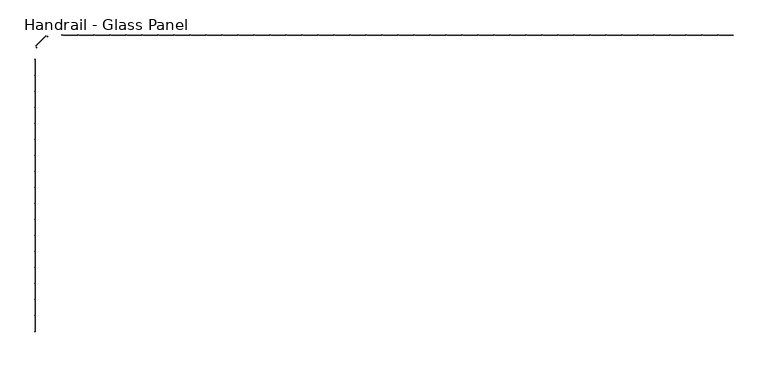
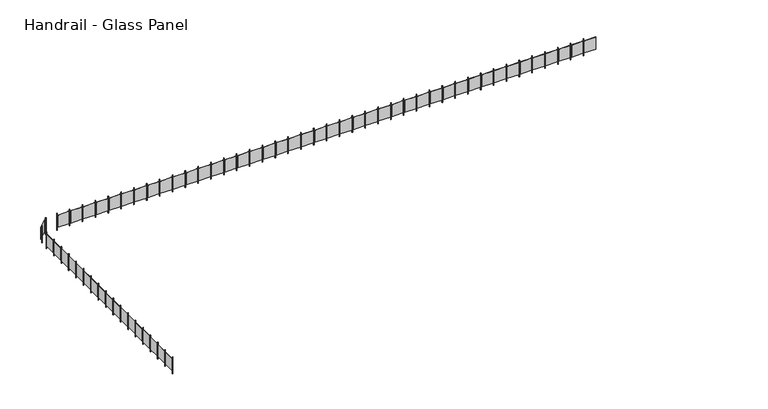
"""IFC4 building model written with IfcOpenShell, lengths in millimetres: railing geometry, Handrail - Glass Panel."""

from ifc_helpers import new_model, si_unit, frame, origin, place, context, project, spatial, polyline, outline, extrude, source, transform, mapped, element, save


def handrail_glass_panel_b0fdf184(model_context):
    return source(origin(), model_context, "Body", "SweptSolid", [
        extrude(outline(polyline([(-19672.5115899, -3230.5898653), (-19653.4615899, -3230.5898653), (-19653.4615899, -3249.6398653), (-19672.5115899, -3249.6398653), (-19672.5115899, -3230.5898653)])), frame((0.0, 0.0, 4650.0), z_axis=(0.0, 0.0, 1.0), x_axis=(1.0, 0.0, 0.0)), (0.0, 0.0, 1.0), 863.6),
        extrude(outline(polyline([(-19656.6365899, -2643.2148653), (-19656.6365899, -3202.0148653), (-19662.9865899, -3202.0148653), (-19662.9865899, -2643.2148653), (-19656.6365899, -2643.2148653)])), frame((0.0, 0.0, 4777.0), z_axis=(0.0, 0.0, 1.0), x_axis=(1.0, 0.0, 0.0)), (0.0, 0.0, 1.0), 635.0),
        extrude(outline(polyline([(-19672.5115899, -2595.5898653), (-19653.4615899, -2595.5898653), (-19653.4615899, -2614.6398653), (-19672.5115899, -2614.6398653), (-19672.5115899, -2595.5898653)])), frame((0.0, 0.0, 4650.0), z_axis=(0.0, 0.0, 1.0), x_axis=(1.0, 0.0, 0.0)), (0.0, 0.0, 1.0), 863.6),
        extrude(outline(polyline([(-19656.6365899, -2008.2148653), (-19656.6365899, -2567.0148653), (-19662.9865899, -2567.0148653), (-19662.9865899, -2008.2148653), (-19656.6365899, -2008.2148653)])), frame((0.0, 0.0, 4777.0), z_axis=(0.0, 0.0, 1.0), x_axis=(1.0, 0.0, 0.0)), (0.0, 0.0, 1.0), 635.0),
        extrude(outline(polyline([(-19672.5115899, -1960.5898653), (-19653.4615899, -1960.5898653), (-19653.4615899, -1979.6398653), (-19672.5115899, -1979.6398653), (-19672.5115899, -1960.5898653)])), frame((0.0, 0.0, 4650.0), z_axis=(0.0, 0.0, 1.0), x_axis=(1.0, 0.0, 0.0)), (0.0, 0.0, 1.0), 863.6),
        extrude(outline(polyline([(-19656.6365899, -1373.2148653), (-19656.6365899, -1932.0148653), (-19662.9865899, -1932.0148653), (-19662.9865899, -1373.2148653), (-19656.6365899, -1373.2148653)])), frame((0.0, 0.0, 4777.0), z_axis=(0.0, 0.0, 1.0), x_axis=(1.0, 0.0, 0.0)), (0.0, 0.0, 1.0), 635.0),
        extrude(outline(polyline([(-19672.5115899, -1325.5898653), (-19653.4615899, -1325.5898653), (-19653.4615899, -1344.6398653), (-19672.5115899, -1344.6398653), (-19672.5115899, -1325.5898653)])), frame((0.0, 0.0, 4650.0), z_axis=(0.0, 0.0, 1.0), x_axis=(1.0, 0.0, 0.0)), (0.0, 0.0, 1.0), 863.6),
        extrude(outline(polyline([(-19656.6365899, -738.2148653), (-19656.6365899, -1297.0148653), (-19662.9865899, -1297.0148653), (-19662.9865899, -738.2148653), (-19656.6365899, -738.2148653)])), frame((0.0, 0.0, 4777.0), z_axis=(0.0, 0.0, 1.0), x_axis=(1.0, 0.0, 0.0)), (0.0, 0.0, 1.0), 635.0),
        extrude(outline(polyline([(-19672.5115899, -690.5898653), (-19653.4615899, -690.5898653), (-19653.4615899, -709.6398653), (-19672.5115899, -709.6398653), (-19672.5115899, -690.5898653)])), frame((0.0, 0.0, 4650.0), z_axis=(0.0, 0.0, 1.0), x_axis=(1.0, 0.0, 0.0)), (0.0, 0.0, 1.0), 863.6),
        extrude(outline(polyline([(-19656.6365899, -103.2148653), (-19656.6365899, -662.0148653), (-19662.9865899, -662.0148653), (-19662.9865899, -103.2148653), (-19656.6365899, -103.2148653)])), frame((0.0, 0.0, 4777.0), z_axis=(0.0, 0.0, 1.0), x_axis=(1.0, 0.0, 0.0)), (0.0, 0.0, 1.0), 635.0),
        extrude(outline(polyline([(-19672.5115899, -55.5898653), (-19653.4615899, -55.5898653), (-19653.4615899, -74.6398653), (-19672.5115899, -74.6398653), (-19672.5115899, -55.5898653)])), frame((0.0, 0.0, 4650.0), z_axis=(0.0, 0.0, 1.0), x_axis=(1.0, 0.0, 0.0)), (0.0, 0.0, 1.0), 863.6),
        extrude(outline(polyline([(-19656.6365899, 531.7851347), (-19656.6365899, -27.0148653), (-19662.9865899, -27.0148653), (-19662.9865899, 531.7851347), (-19656.6365899, 531.7851347)])), frame((0.0, 0.0, 4777.0), z_axis=(0.0, 0.0, 1.0), x_axis=(1.0, 0.0, 0.0)), (0.0, 0.0, 1.0), 635.0),
        extrude(outline(polyline([(-19672.5115899, 579.4101347), (-19653.4615899, 579.4101347), (-19653.4615899, 560.3601347), (-19672.5115899, 560.3601347), (-19672.5115899, 579.4101347)])), frame((0.0, 0.0, 4650.0), z_axis=(0.0, 0.0, 1.0), x_axis=(1.0, 0.0, 0.0)), (0.0, 0.0, 1.0), 863.6),
        extrude(outline(polyline([(-19656.6365899, 1166.7851347), (-19656.6365899, 607.9851347), (-19662.9865899, 607.9851347), (-19662.9865899, 1166.7851347), (-19656.6365899, 1166.7851347)])), frame((0.0, 0.0, 4777.0), z_axis=(0.0, 0.0, 1.0), x_axis=(1.0, 0.0, 0.0)), (0.0, 0.0, 1.0), 635.0),
        extrude(outline(polyline([(-19672.5115899, 1214.4101347), (-19653.4615899, 1214.4101347), (-19653.4615899, 1195.3601347), (-19672.5115899, 1195.3601347), (-19672.5115899, 1214.4101347)])), frame((0.0, 0.0, 4650.0), z_axis=(0.0, 0.0, 1.0), x_axis=(1.0, 0.0, 0.0)), (0.0, 0.0, 1.0), 863.6),
        extrude(outline(polyline([(-19656.6365899, 1801.7851347), (-19656.6365899, 1242.9851347), (-19662.9865899, 1242.9851347), (-19662.9865899, 1801.7851347), (-19656.6365899, 1801.7851347)])), frame((0.0, 0.0, 4777.0), z_axis=(0.0, 0.0, 1.0), x_axis=(1.0, 0.0, 0.0)), (0.0, 0.0, 1.0), 635.0),
        extrude(outline(polyline([(-19672.5115899, 1849.4101347), (-19653.4615899, 1849.4101347), (-19653.4615899, 1830.3601347), (-19672.5115899, 1830.3601347), (-19672.5115899, 1849.4101347)])), frame((0.0, 0.0, 4650.0), z_axis=(0.0, 0.0, 1.0), x_axis=(1.0, 0.0, 0.0)), (0.0, 0.0, 1.0), 863.6),
        extrude(outline(polyline([(-19656.6365899, 2436.7851347), (-19656.6365899, 1877.9851347), (-19662.9865899, 1877.9851347), (-19662.9865899, 2436.7851347), (-19656.6365899, 2436.7851347)])), frame((0.0, 0.0, 4777.0), z_axis=(0.0, 0.0, 1.0), x_axis=(1.0, 0.0, 0.0)), (0.0, 0.0, 1.0), 635.0),
        extrude(outline(polyline([(-19672.5115899, 2484.4101347), (-19653.4615899, 2484.4101347), (-19653.4615899, 2465.3601347), (-19672.5115899, 2465.3601347), (-19672.5115899, 2484.4101347)])), frame((0.0, 0.0, 4650.0), z_axis=(0.0, 0.0, 1.0), x_axis=(1.0, 0.0, 0.0)), (0.0, 0.0, 1.0), 863.6),
        extrude(outline(polyline([(-19656.6365899, 3071.7851347), (-19656.6365899, 2512.9851347), (-19662.9865899, 2512.9851347), (-19662.9865899, 3071.7851347), (-19656.6365899, 3071.7851347)])), frame((0.0, 0.0, 4777.0), z_axis=(0.0, 0.0, 1.0), x_axis=(1.0, 0.0, 0.0)), (0.0, 0.0, 1.0), 635.0),
        extrude(outline(polyline([(-19672.5115899, 3119.4101347), (-19653.4615899, 3119.4101347), (-19653.4615899, 3100.3601347), (-19672.5115899, 3100.3601347), (-19672.5115899, 3119.4101347)])), frame((0.0, 0.0, 4650.0), z_axis=(0.0, 0.0, 1.0), x_axis=(1.0, 0.0, 0.0)), (0.0, 0.0, 1.0), 863.6),
        extrude(outline(polyline([(-19656.6365899, 3706.7851347), (-19656.6365899, 3147.9851347), (-19662.9865899, 3147.9851347), (-19662.9865899, 3706.7851347), (-19656.6365899, 3706.7851347)])), frame((0.0, 0.0, 4777.0), z_axis=(0.0, 0.0, 1.0), x_axis=(1.0, 0.0, 0.0)), (0.0, 0.0, 1.0), 635.0),
        extrude(outline(polyline([(-19672.5115899, 3754.4101347), (-19653.4615899, 3754.4101347), (-19653.4615899, 3735.3601347), (-19672.5115899, 3735.3601347), (-19672.5115899, 3754.4101347)])), frame((0.0, 0.0, 4650.0), z_axis=(0.0, 0.0, 1.0), x_axis=(1.0, 0.0, 0.0)), (0.0, 0.0, 1.0), 863.6),
        extrude(outline(polyline([(-19656.6365899, 4341.7851347), (-19656.6365899, 3782.9851347), (-19662.9865899, 3782.9851347), (-19662.9865899, 4341.7851347), (-19656.6365899, 4341.7851347)])), frame((0.0, 0.0, 4777.0), z_axis=(0.0, 0.0, 1.0), x_axis=(1.0, 0.0, 0.0)), (0.0, 0.0, 1.0), 635.0),
        extrude(outline(polyline([(-19672.5115899, 4389.4101347), (-19653.4615899, 4389.4101347), (-19653.4615899, 4370.3601347), (-19672.5115899, 4370.3601347), (-19672.5115899, 4389.4101347)])), frame((0.0, 0.0, 4650.0), z_axis=(0.0, 0.0, 1.0), x_axis=(1.0, 0.0, 0.0)), (0.0, 0.0, 1.0), 863.6),
        extrude(outline(polyline([(-19656.6365899, 4976.7851347), (-19656.6365899, 4417.9851347), (-19662.9865899, 4417.9851347), (-19662.9865899, 4976.7851347), (-19656.6365899, 4976.7851347)])), frame((0.0, 0.0, 4777.0), z_axis=(0.0, 0.0, 1.0), x_axis=(1.0, 0.0, 0.0)), (0.0, 0.0, 1.0), 635.0),
        extrude(outline(polyline([(-19672.5115899, 5024.4101347), (-19653.4615899, 5024.4101347), (-19653.4615899, 5005.3601347), (-19672.5115899, 5005.3601347), (-19672.5115899, 5024.4101347)])), frame((0.0, 0.0, 4650.0), z_axis=(0.0, 0.0, 1.0), x_axis=(1.0, 0.0, 0.0)), (0.0, 0.0, 1.0), 863.6),
        extrude(outline(polyline([(-19656.6365899, 5611.7851347), (-19656.6365899, 5052.9851347), (-19662.9865899, 5052.9851347), (-19662.9865899, 5611.7851347), (-19656.6365899, 5611.7851347)])), frame((0.0, 0.0, 4777.0), z_axis=(0.0, 0.0, 1.0), x_axis=(1.0, 0.0, 0.0)), (0.0, 0.0, 1.0), 635.0),
        extrude(outline(polyline([(-19672.5115899, 5659.4101347), (-19653.4615899, 5659.4101347), (-19653.4615899, 5640.3601347), (-19672.5115899, 5640.3601347), (-19672.5115899, 5659.4101347)])), frame((0.0, 0.0, 4650.0), z_axis=(0.0, 0.0, 1.0), x_axis=(1.0, 0.0, 0.0)), (0.0, 0.0, 1.0), 863.6),
        extrude(outline(polyline([(-19656.6365899, 6246.7851347), (-19656.6365899, 5687.9851347), (-19662.9865899, 5687.9851347), (-19662.9865899, 6246.7851347), (-19656.6365899, 6246.7851347)])), frame((0.0, 0.0, 4777.0), z_axis=(0.0, 0.0, 1.0), x_axis=(1.0, 0.0, 0.0)), (0.0, 0.0, 1.0), 635.0),
        extrude(outline(polyline([(-19672.5115899, 6294.4101347), (-19653.4615899, 6294.4101347), (-19653.4615899, 6275.3601347), (-19672.5115899, 6275.3601347), (-19672.5115899, 6294.4101347)])), frame((0.0, 0.0, 4650.0), z_axis=(0.0, 0.0, 1.0), x_axis=(1.0, 0.0, 0.0)), (0.0, 0.0, 1.0), 863.6),
        extrude(outline(polyline([(-19656.6365899, 6881.7851347), (-19656.6365899, 6322.9851347), (-19662.9865899, 6322.9851347), (-19662.9865899, 6881.7851347), (-19656.6365899, 6881.7851347)])), frame((0.0, 0.0, 4777.0), z_axis=(0.0, 0.0, 1.0), x_axis=(1.0, 0.0, 0.0)), (0.0, 0.0, 1.0), 635.0),
        extrude(outline(polyline([(-19672.5115899, 6929.4101347), (-19653.4615899, 6929.4101347), (-19653.4615899, 6910.3601347), (-19672.5115899, 6910.3601347), (-19672.5115899, 6929.4101347)])), frame((0.0, 0.0, 4650.0), z_axis=(0.0, 0.0, 1.0), x_axis=(1.0, 0.0, 0.0)), (0.0, 0.0, 1.0), 863.6),
        extrude(outline(polyline([(-19656.6365899, 7516.7851347), (-19656.6365899, 6957.9851347), (-19662.9865899, 6957.9851347), (-19662.9865899, 7516.7851347), (-19656.6365899, 7516.7851347)])), frame((0.0, 0.0, 4777.0), z_axis=(0.0, 0.0, 1.0), x_axis=(1.0, 0.0, 0.0)), (0.0, 0.0, 1.0), 635.0),
        extrude(outline(polyline([(-19672.5115899, 7564.4101347), (-19653.4615899, 7564.4101347), (-19653.4615899, 7545.3601347), (-19672.5115899, 7545.3601347), (-19672.5115899, 7564.4101347)])), frame((0.0, 0.0, 4650.0), z_axis=(0.0, 0.0, 1.0), x_axis=(1.0, 0.0, 0.0)), (0.0, 0.0, 1.0), 863.6),
        extrude(outline(polyline([(-19614.1999922, 8044.4220765), (-19596.4803333, 8037.4280656), (-19603.4743442, 8019.7084067), (-19621.1940031, 8026.7024176), (-19614.1999922, 8044.4220765)])), frame((0.0, 0.0, 4650.0), z_axis=(0.0, 0.0, 1.0), x_axis=(1.0, 0.0, 0.0)), (0.0, 0.0, 1.0), 863.6),
        extrude(outline(polyline([(-19233.8214253, 8488.7512395), (-19628.9526946, 8093.6199701), (-19633.4428227, 8098.1100982), (-19238.3115534, 8493.2413675), (-19233.8214253, 8488.7512395)])), frame((0.0, 0.0, 4777.0), z_axis=(0.0, 0.0, 1.0), x_axis=(1.0, 0.0, 0.0)), (0.0, 0.0, 1.0), 635.0),
        extrude(outline(polyline([(-19166.9038727, 8480.992548), (-19159.9098618, 8463.2728891), (-19177.6295208, 8456.2788782), (-19184.6235316, 8473.9985371), (-19166.9038727, 8480.992548)])), frame((0.0, 0.0, 4650.0), z_axis=(0.0, 0.0, 1.0), x_axis=(1.0, 0.0, 0.0)), (0.0, 0.0, 1.0), 863.6),
        extrude(outline(polyline([(-18585.1200192, 8532.3101347), (-18585.1200192, 8513.2601347), (-18604.1700192, 8513.2601347), (-18604.1700192, 8532.3101347), (-18585.1200192, 8532.3101347)])), frame((0.0, 0.0, 4650.0), z_axis=(0.0, 0.0, 1.0), x_axis=(1.0, 0.0, 0.0)), (0.0, 0.0, 1.0), 863.6),
        extrude(outline(polyline([(-17997.7450192, 8516.4351347), (-18556.5450192, 8516.4351347), (-18556.5450192, 8522.7851347), (-17997.7450192, 8522.7851347), (-17997.7450192, 8516.4351347)])), frame((0.0, 0.0, 4777.0), z_axis=(0.0, 0.0, 1.0), x_axis=(1.0, 0.0, 0.0)), (0.0, 0.0, 1.0), 635.0),
        extrude(outline(polyline([(-17950.1200192, 8532.3101347), (-17950.1200192, 8513.2601347), (-17969.1700192, 8513.2601347), (-17969.1700192, 8532.3101347), (-17950.1200192, 8532.3101347)])), frame((0.0, 0.0, 4650.0), z_axis=(0.0, 0.0, 1.0), x_axis=(1.0, 0.0, 0.0)), (0.0, 0.0, 1.0), 863.6),
        extrude(outline(polyline([(-17362.7450192, 8516.4351347), (-17921.5450192, 8516.4351347), (-17921.5450192, 8522.7851347), (-17362.7450192, 8522.7851347), (-17362.7450192, 8516.4351347)])), frame((0.0, 0.0, 4777.0), z_axis=(0.0, 0.0, 1.0), x_axis=(1.0, 0.0, 0.0)), (0.0, 0.0, 1.0), 635.0),
        extrude(outline(polyline([(-17315.1200192, 8532.3101347), (-17315.1200192, 8513.2601347), (-17334.1700192, 8513.2601347), (-17334.1700192, 8532.3101347), (-17315.1200192, 8532.3101347)])), frame((0.0, 0.0, 4650.0), z_axis=(0.0, 0.0, 1.0), x_axis=(1.0, 0.0, 0.0)), (0.0, 0.0, 1.0), 863.6),
        extrude(outline(polyline([(-16727.7450192, 8516.4351347), (-17286.5450192, 8516.4351347), (-17286.5450192, 8522.7851347), (-16727.7450192, 8522.7851347), (-16727.7450192, 8516.4351347)])), frame((0.0, 0.0, 4777.0), z_axis=(0.0, 0.0, 1.0), x_axis=(1.0, 0.0, 0.0)), (0.0, 0.0, 1.0), 635.0),
        extrude(outline(polyline([(-16680.1200192, 8532.3101347), (-16680.1200192, 8513.2601347), (-16699.1700192, 8513.2601347), (-16699.1700192, 8532.3101347), (-16680.1200192, 8532.3101347)])), frame((0.0, 0.0, 4650.0), z_axis=(0.0, 0.0, 1.0), x_axis=(1.0, 0.0, 0.0)), (0.0, 0.0, 1.0), 863.6),
        extrude(outline(polyline([(-16092.7450192, 8516.4351347), (-16651.5450192, 8516.4351347), (-16651.5450192, 8522.7851347), (-16092.7450192, 8522.7851347), (-16092.7450192, 8516.4351347)])), frame((0.0, 0.0, 4777.0), z_axis=(0.0, 0.0, 1.0), x_axis=(1.0, 0.0, 0.0)), (0.0, 0.0, 1.0), 635.0),
        extrude(outline(polyline([(-16045.1200192, 8532.3101347), (-16045.1200192, 8513.2601347), (-16064.1700192, 8513.2601347), (-16064.1700192, 8532.3101347), (-16045.1200192, 8532.3101347)])), frame((0.0, 0.0, 4650.0), z_axis=(0.0, 0.0, 1.0), x_axis=(1.0, 0.0, 0.0)), (0.0, 0.0, 1.0), 863.6),
        extrude(outline(polyline([(-15457.7450192, 8516.4351347), (-16016.5450192, 8516.4351347), (-16016.5450192, 8522.7851347), (-15457.7450192, 8522.7851347), (-15457.7450192, 8516.4351347)])), frame((0.0, 0.0, 4777.0), z_axis=(0.0, 0.0, 1.0), x_axis=(1.0, 0.0, 0.0)), (0.0, 0.0, 1.0), 635.0),
        extrude(outline(polyline([(-15410.1200192, 8532.3101347), (-15410.1200192, 8513.2601347), (-15429.1700192, 8513.2601347), (-15429.1700192, 8532.3101347), (-15410.1200192, 8532.3101347)])), frame((0.0, 0.0, 4650.0), z_axis=(0.0, 0.0, 1.0), x_axis=(1.0, 0.0, 0.0)), (0.0, 0.0, 1.0), 863.6),
        extrude(outline(polyline([(-14822.7450192, 8516.4351347), (-15381.5450192, 8516.4351347), (-15381.5450192, 8522.7851347), (-14822.7450192, 8522.7851347), (-14822.7450192, 8516.4351347)])), frame((0.0, 0.0, 4777.0), z_axis=(0.0, 0.0, 1.0), x_axis=(1.0, 0.0, 0.0)), (0.0, 0.0, 1.0), 635.0),
        extrude(outline(polyline([(-14775.1200192, 8532.3101347), (-14775.1200192, 8513.2601347), (-14794.1700192, 8513.2601347), (-14794.1700192, 8532.3101347), (-14775.1200192, 8532.3101347)])), frame((0.0, 0.0, 4650.0), z_axis=(0.0, 0.0, 1.0), x_axis=(1.0, 0.0, 0.0)), (0.0, 0.0, 1.0), 863.6),
        extrude(outline(polyline([(-14187.7450192, 8516.4351347), (-14746.5450192, 8516.4351347), (-14746.5450192, 8522.7851347), (-14187.7450192, 8522.7851347), (-14187.7450192, 8516.4351347)])), frame((0.0, 0.0, 4777.0), z_axis=(0.0, 0.0, 1.0), x_axis=(1.0, 0.0, 0.0)), (0.0, 0.0, 1.0), 635.0),
        extrude(outline(polyline([(-14140.1200192, 8532.3101347), (-14140.1200192, 8513.2601347), (-14159.1700192, 8513.2601347), (-14159.1700192, 8532.3101347), (-14140.1200192, 8532.3101347)])), frame((0.0, 0.0, 4650.0), z_axis=(0.0, 0.0, 1.0), x_axis=(1.0, 0.0, 0.0)), (0.0, 0.0, 1.0), 863.6),
        extrude(outline(polyline([(-13552.7450192, 8516.4351347), (-14111.5450192, 8516.4351347), (-14111.5450192, 8522.7851347), (-13552.7450192, 8522.7851347), (-13552.7450192, 8516.4351347)])), frame((0.0, 0.0, 4777.0), z_axis=(0.0, 0.0, 1.0), x_axis=(1.0, 0.0, 0.0)), (0.0, 0.0, 1.0), 635.0),
        extrude(outline(polyline([(-13505.1200192, 8532.3101347), (-13505.1200192, 8513.2601347), (-13524.1700192, 8513.2601347), (-13524.1700192, 8532.3101347), (-13505.1200192, 8532.3101347)])), frame((0.0, 0.0, 4650.0), z_axis=(0.0, 0.0, 1.0), x_axis=(1.0, 0.0, 0.0)), (0.0, 0.0, 1.0), 863.6),
        extrude(outline(polyline([(-12917.7450192, 8516.4351347), (-13476.5450192, 8516.4351347), (-13476.5450192, 8522.7851347), (-12917.7450192, 8522.7851347), (-12917.7450192, 8516.4351347)])), frame((0.0, 0.0, 4777.0), z_axis=(0.0, 0.0, 1.0), x_axis=(1.0, 0.0, 0.0)), (0.0, 0.0, 1.0), 635.0),
        extrude(outline(polyline([(-12870.1200192, 8532.3101347), (-12870.1200192, 8513.2601347), (-12889.1700192, 8513.2601347), (-12889.1700192, 8532.3101347), (-12870.1200192, 8532.3101347)])), frame((0.0, 0.0, 4650.0), z_axis=(0.0, 0.0, 1.0), x_axis=(1.0, 0.0, 0.0)), (0.0, 0.0, 1.0), 863.6),
        extrude(outline(polyline([(-12282.7450192, 8516.4351347), (-12841.5450192, 8516.4351347), (-12841.5450192, 8522.7851347), (-12282.7450192, 8522.7851347), (-12282.7450192, 8516.4351347)])), frame((0.0, 0.0, 4777.0), z_axis=(0.0, 0.0, 1.0), x_axis=(1.0, 0.0, 0.0)), (0.0, 0.0, 1.0), 635.0),
        extrude(outline(polyline([(-12235.1200192, 8532.3101347), (-12235.1200192, 8513.2601347), (-12254.1700192, 8513.2601347), (-12254.1700192, 8532.3101347), (-12235.1200192, 8532.3101347)])), frame((0.0, 0.0, 4650.0), z_axis=(0.0, 0.0, 1.0), x_axis=(1.0, 0.0, 0.0)), (0.0, 0.0, 1.0), 863.6),
        extrude(outline(polyline([(-11647.7450192, 8516.4351347), (-12206.5450192, 8516.4351347), (-12206.5450192, 8522.7851347), (-11647.7450192, 8522.7851347), (-11647.7450192, 8516.4351347)])), frame((0.0, 0.0, 4777.0), z_axis=(0.0, 0.0, 1.0), x_axis=(1.0, 0.0, 0.0)), (0.0, 0.0, 1.0), 635.0),
        extrude(outline(polyline([(-11600.1200192, 8532.3101347), (-11600.1200192, 8513.2601347), (-11619.1700192, 8513.2601347), (-11619.1700192, 8532.3101347), (-11600.1200192, 8532.3101347)])), frame((0.0, 0.0, 4650.0), z_axis=(0.0, 0.0, 1.0), x_axis=(1.0, 0.0, 0.0)), (0.0, 0.0, 1.0), 863.6),
        extrude(outline(polyline([(-11012.7450192, 8516.4351347), (-11571.5450192, 8516.4351347), (-11571.5450192, 8522.7851347), (-11012.7450192, 8522.7851347), (-11012.7450192, 8516.4351347)])), frame((0.0, 0.0, 4777.0), z_axis=(0.0, 0.0, 1.0), x_axis=(1.0, 0.0, 0.0)), (0.0, 0.0, 1.0), 635.0),
        extrude(outline(polyline([(-10965.1200192, 8532.3101347), (-10965.1200192, 8513.2601347), (-10984.1700192, 8513.2601347), (-10984.1700192, 8532.3101347), (-10965.1200192, 8532.3101347)])), frame((0.0, 0.0, 4650.0), z_axis=(0.0, 0.0, 1.0), x_axis=(1.0, 0.0, 0.0)), (0.0, 0.0, 1.0), 863.6),
        extrude(outline(polyline([(-10377.7450192, 8516.4351347), (-10936.5450192, 8516.4351347), (-10936.5450192, 8522.7851347), (-10377.7450192, 8522.7851347), (-10377.7450192, 8516.4351347)])), frame((0.0, 0.0, 4777.0), z_axis=(0.0, 0.0, 1.0), x_axis=(1.0, 0.0, 0.0)), (0.0, 0.0, 1.0), 635.0),
        extrude(outline(polyline([(-10330.1200192, 8532.3101347), (-10330.1200192, 8513.2601347), (-10349.1700192, 8513.2601347), (-10349.1700192, 8532.3101347), (-10330.1200192, 8532.3101347)])), frame((0.0, 0.0, 4650.0), z_axis=(0.0, 0.0, 1.0), x_axis=(1.0, 0.0, 0.0)), (0.0, 0.0, 1.0), 863.6),
        extrude(outline(polyline([(-9742.7450192, 8516.4351347), (-10301.5450192, 8516.4351347), (-10301.5450192, 8522.7851347), (-9742.7450192, 8522.7851347), (-9742.7450192, 8516.4351347)])), frame((0.0, 0.0, 4777.0), z_axis=(0.0, 0.0, 1.0), x_axis=(1.0, 0.0, 0.0)), (0.0, 0.0, 1.0), 635.0),
        extrude(outline(polyline([(-9695.1200192, 8532.3101347), (-9695.1200192, 8513.2601347), (-9714.1700192, 8513.2601347), (-9714.1700192, 8532.3101347), (-9695.1200192, 8532.3101347)])), frame((0.0, 0.0, 4650.0), z_axis=(0.0, 0.0, 1.0), x_axis=(1.0, 0.0, 0.0)), (0.0, 0.0, 1.0), 863.6),
        extrude(outline(polyline([(-9107.7450192, 8516.4351347), (-9666.5450192, 8516.4351347), (-9666.5450192, 8522.7851347), (-9107.7450192, 8522.7851347), (-9107.7450192, 8516.4351347)])), frame((0.0, 0.0, 4777.0), z_axis=(0.0, 0.0, 1.0), x_axis=(1.0, 0.0, 0.0)), (0.0, 0.0, 1.0), 635.0),
        extrude(outline(polyline([(-9060.1200192, 8532.3101347), (-9060.1200192, 8513.2601347), (-9079.1700192, 8513.2601347), (-9079.1700192, 8532.3101347), (-9060.1200192, 8532.3101347)])), frame((0.0, 0.0, 4650.0), z_axis=(0.0, 0.0, 1.0), x_axis=(1.0, 0.0, 0.0)), (0.0, 0.0, 1.0), 863.6),
        extrude(outline(polyline([(-8472.7450192, 8516.4351347), (-9031.5450192, 8516.4351347), (-9031.5450192, 8522.7851347), (-8472.7450192, 8522.7851347), (-8472.7450192, 8516.4351347)])), frame((0.0, 0.0, 4777.0), z_axis=(0.0, 0.0, 1.0), x_axis=(1.0, 0.0, 0.0)), (0.0, 0.0, 1.0), 635.0),
        extrude(outline(polyline([(-8425.1200192, 8532.3101347), (-8425.1200192, 8513.2601347), (-8444.1700192, 8513.2601347), (-8444.1700192, 8532.3101347), (-8425.1200192, 8532.3101347)])), frame((0.0, 0.0, 4650.0), z_axis=(0.0, 0.0, 1.0), x_axis=(1.0, 0.0, 0.0)), (0.0, 0.0, 1.0), 863.6),
        extrude(outline(polyline([(-7837.7450192, 8516.4351347), (-8396.5450192, 8516.4351347), (-8396.5450192, 8522.7851347), (-7837.7450192, 8522.7851347), (-7837.7450192, 8516.4351347)])), frame((0.0, 0.0, 4777.0), z_axis=(0.0, 0.0, 1.0), x_axis=(1.0, 0.0, 0.0)), (0.0, 0.0, 1.0), 635.0),
        extrude(outline(polyline([(-7790.1200192, 8532.3101347), (-7790.1200192, 8513.2601347), (-7809.1700192, 8513.2601347), (-7809.1700192, 8532.3101347), (-7790.1200192, 8532.3101347)])), frame((0.0, 0.0, 4650.0), z_axis=(0.0, 0.0, 1.0), x_axis=(1.0, 0.0, 0.0)), (0.0, 0.0, 1.0), 863.6),
        extrude(outline(polyline([(-7202.7450192, 8516.4351347), (-7761.5450192, 8516.4351347), (-7761.5450192, 8522.7851347), (-7202.7450192, 8522.7851347), (-7202.7450192, 8516.4351347)])), frame((0.0, 0.0, 4777.0), z_axis=(0.0, 0.0, 1.0), x_axis=(1.0, 0.0, 0.0)), (0.0, 0.0, 1.0), 635.0),
        extrude(outline(polyline([(-7155.1200192, 8532.3101347), (-7155.1200192, 8513.2601347), (-7174.1700192, 8513.2601347), (-7174.1700192, 8532.3101347), (-7155.1200192, 8532.3101347)])), frame((0.0, 0.0, 4650.0), z_axis=(0.0, 0.0, 1.0), x_axis=(1.0, 0.0, 0.0)), (0.0, 0.0, 1.0), 863.6),
        extrude(outline(polyline([(-6567.7450192, 8516.4351347), (-7126.5450192, 8516.4351347), (-7126.5450192, 8522.7851347), (-6567.7450192, 8522.7851347), (-6567.7450192, 8516.4351347)])), frame((0.0, 0.0, 4777.0), z_axis=(0.0, 0.0, 1.0), x_axis=(1.0, 0.0, 0.0)), (0.0, 0.0, 1.0), 635.0),
        extrude(outline(polyline([(-6520.1200192, 8532.3101347), (-6520.1200192, 8513.2601347), (-6539.1700192, 8513.2601347), (-6539.1700192, 8532.3101347), (-6520.1200192, 8532.3101347)])), frame((0.0, 0.0, 4650.0), z_axis=(0.0, 0.0, 1.0), x_axis=(1.0, 0.0, 0.0)), (0.0, 0.0, 1.0), 863.6),
        extrude(outline(polyline([(-5932.7450192, 8516.4351347), (-6491.5450192, 8516.4351347), (-6491.5450192, 8522.7851347), (-5932.7450192, 8522.7851347), (-5932.7450192, 8516.4351347)])), frame((0.0, 0.0, 4777.0), z_axis=(0.0, 0.0, 1.0), x_axis=(1.0, 0.0, 0.0)), (0.0, 0.0, 1.0), 635.0),
        extrude(outline(polyline([(-5885.1200192, 8532.3101347), (-5885.1200192, 8513.2601347), (-5904.1700192, 8513.2601347), (-5904.1700192, 8532.3101347), (-5885.1200192, 8532.3101347)])), frame((0.0, 0.0, 4650.0), z_axis=(0.0, 0.0, 1.0), x_axis=(1.0, 0.0, 0.0)), (0.0, 0.0, 1.0), 863.6),
        extrude(outline(polyline([(-5297.7450192, 8516.4351347), (-5856.5450192, 8516.4351347), (-5856.5450192, 8522.7851347), (-5297.7450192, 8522.7851347), (-5297.7450192, 8516.4351347)])), frame((0.0, 0.0, 4777.0), z_axis=(0.0, 0.0, 1.0), x_axis=(1.0, 0.0, 0.0)), (0.0, 0.0, 1.0), 635.0),
        extrude(outline(polyline([(-5250.1200192, 8532.3101347), (-5250.1200192, 8513.2601347), (-5269.1700192, 8513.2601347), (-5269.1700192, 8532.3101347), (-5250.1200192, 8532.3101347)])), frame((0.0, 0.0, 4650.0), z_axis=(0.0, 0.0, 1.0), x_axis=(1.0, 0.0, 0.0)), (0.0, 0.0, 1.0), 863.6),
        extrude(outline(polyline([(-4662.7450192, 8516.4351347), (-5221.5450192, 8516.4351347), (-5221.5450192, 8522.7851347), (-4662.7450192, 8522.7851347), (-4662.7450192, 8516.4351347)])), frame((0.0, 0.0, 4777.0), z_axis=(0.0, 0.0, 1.0), x_axis=(1.0, 0.0, 0.0)), (0.0, 0.0, 1.0), 635.0),
        extrude(outline(polyline([(-4615.1200192, 8532.3101347), (-4615.1200192, 8513.2601347), (-4634.1700192, 8513.2601347), (-4634.1700192, 8532.3101347), (-4615.1200192, 8532.3101347)])), frame((0.0, 0.0, 4650.0), z_axis=(0.0, 0.0, 1.0), x_axis=(1.0, 0.0, 0.0)), (0.0, 0.0, 1.0), 863.6),
        extrude(outline(polyline([(-4027.7450192, 8516.4351347), (-4586.5450192, 8516.4351347), (-4586.5450192, 8522.7851347), (-4027.7450192, 8522.7851347), (-4027.7450192, 8516.4351347)])), frame((0.0, 0.0, 4777.0), z_axis=(0.0, 0.0, 1.0), x_axis=(1.0, 0.0, 0.0)), (0.0, 0.0, 1.0), 635.0),
        extrude(outline(polyline([(-3980.1200192, 8532.3101347), (-3980.1200192, 8513.2601347), (-3999.1700192, 8513.2601347), (-3999.1700192, 8532.3101347), (-3980.1200192, 8532.3101347)])), frame((0.0, 0.0, 4650.0), z_axis=(0.0, 0.0, 1.0), x_axis=(1.0, 0.0, 0.0)), (0.0, 0.0, 1.0), 863.6),
        extrude(outline(polyline([(-3392.7450192, 8516.4351347), (-3951.5450192, 8516.4351347), (-3951.5450192, 8522.7851347), (-3392.7450192, 8522.7851347), (-3392.7450192, 8516.4351347)])), frame((0.0, 0.0, 4777.0), z_axis=(0.0, 0.0, 1.0), x_axis=(1.0, 0.0, 0.0)), (0.0, 0.0, 1.0), 635.0),
        extrude(outline(polyline([(-3345.1200192, 8532.3101347), (-3345.1200192, 8513.2601347), (-3364.1700192, 8513.2601347), (-3364.1700192, 8532.3101347), (-3345.1200192, 8532.3101347)])), frame((0.0, 0.0, 4650.0), z_axis=(0.0, 0.0, 1.0), x_axis=(1.0, 0.0, 0.0)), (0.0, 0.0, 1.0), 863.6),
        extrude(outline(polyline([(-2757.7450192, 8516.4351347), (-3316.5450192, 8516.4351347), (-3316.5450192, 8522.7851347), (-2757.7450192, 8522.7851347), (-2757.7450192, 8516.4351347)])), frame((0.0, 0.0, 4777.0), z_axis=(0.0, 0.0, 1.0), x_axis=(1.0, 0.0, 0.0)), (0.0, 0.0, 1.0), 635.0),
        extrude(outline(polyline([(-2710.1200192, 8532.3101347), (-2710.1200192, 8513.2601347), (-2729.1700192, 8513.2601347), (-2729.1700192, 8532.3101347), (-2710.1200192, 8532.3101347)])), frame((0.0, 0.0, 4650.0), z_axis=(0.0, 0.0, 1.0), x_axis=(1.0, 0.0, 0.0)), (0.0, 0.0, 1.0), 863.6),
        extrude(outline(polyline([(-2122.7450192, 8516.4351347), (-2681.5450192, 8516.4351347), (-2681.5450192, 8522.7851347), (-2122.7450192, 8522.7851347), (-2122.7450192, 8516.4351347)])), frame((0.0, 0.0, 4777.0), z_axis=(0.0, 0.0, 1.0), x_axis=(1.0, 0.0, 0.0)), (0.0, 0.0, 1.0), 635.0),
        extrude(outline(polyline([(-2075.1200192, 8532.3101347), (-2075.1200192, 8513.2601347), (-2094.1700192, 8513.2601347), (-2094.1700192, 8532.3101347), (-2075.1200192, 8532.3101347)])), frame((0.0, 0.0, 4650.0), z_axis=(0.0, 0.0, 1.0), x_axis=(1.0, 0.0, 0.0)), (0.0, 0.0, 1.0), 863.6),
        extrude(outline(polyline([(-1487.7450192, 8516.4351347), (-2046.5450192, 8516.4351347), (-2046.5450192, 8522.7851347), (-1487.7450192, 8522.7851347), (-1487.7450192, 8516.4351347)])), frame((0.0, 0.0, 4777.0), z_axis=(0.0, 0.0, 1.0), x_axis=(1.0, 0.0, 0.0)), (0.0, 0.0, 1.0), 635.0),
        extrude(outline(polyline([(-1440.1200192, 8532.3101347), (-1440.1200192, 8513.2601347), (-1459.1700192, 8513.2601347), (-1459.1700192, 8532.3101347), (-1440.1200192, 8532.3101347)])), frame((0.0, 0.0, 4650.0), z_axis=(0.0, 0.0, 1.0), x_axis=(1.0, 0.0, 0.0)), (0.0, 0.0, 1.0), 863.6),
        extrude(outline(polyline([(-852.7450192, 8516.4351347), (-1411.5450192, 8516.4351347), (-1411.5450192, 8522.7851347), (-852.7450192, 8522.7851347), (-852.7450192, 8516.4351347)])), frame((0.0, 0.0, 4777.0), z_axis=(0.0, 0.0, 1.0), x_axis=(1.0, 0.0, 0.0)), (0.0, 0.0, 1.0), 635.0),
        extrude(outline(polyline([(-805.1200192, 8532.3101347), (-805.1200192, 8513.2601347), (-824.1700192, 8513.2601347), (-824.1700192, 8532.3101347), (-805.1200192, 8532.3101347)])), frame((0.0, 0.0, 4650.0), z_axis=(0.0, 0.0, 1.0), x_axis=(1.0, 0.0, 0.0)), (0.0, 0.0, 1.0), 863.6),
        extrude(outline(polyline([(-217.7450192, 8516.4351347), (-776.5450192, 8516.4351347), (-776.5450192, 8522.7851347), (-217.7450192, 8522.7851347), (-217.7450192, 8516.4351347)])), frame((0.0, 0.0, 4777.0), z_axis=(0.0, 0.0, 1.0), x_axis=(1.0, 0.0, 0.0)), (0.0, 0.0, 1.0), 635.0),
        extrude(outline(polyline([(-170.1200192, 8532.3101347), (-170.1200192, 8513.2601347), (-189.1700192, 8513.2601347), (-189.1700192, 8532.3101347), (-170.1200192, 8532.3101347)])), frame((0.0, 0.0, 4650.0), z_axis=(0.0, 0.0, 1.0), x_axis=(1.0, 0.0, 0.0)), (0.0, 0.0, 1.0), 863.6),
        extrude(outline(polyline([(417.2549808, 8516.4351347), (-141.5450192, 8516.4351347), (-141.5450192, 8522.7851347), (417.2549808, 8522.7851347), (417.2549808, 8516.4351347)])), frame((0.0, 0.0, 4777.0), z_axis=(0.0, 0.0, 1.0), x_axis=(1.0, 0.0, 0.0)), (0.0, 0.0, 1.0), 635.0),
        extrude(outline(polyline([(464.8799808, 8532.3101347), (464.8799808, 8513.2601347), (445.8299808, 8513.2601347), (445.8299808, 8532.3101347), (464.8799808, 8532.3101347)])), frame((0.0, 0.0, 4650.0), z_axis=(0.0, 0.0, 1.0), x_axis=(1.0, 0.0, 0.0)), (0.0, 0.0, 1.0), 863.6),
        extrude(outline(polyline([(1052.2549808, 8516.4351347), (493.4549808, 8516.4351347), (493.4549808, 8522.7851347), (1052.2549808, 8522.7851347), (1052.2549808, 8516.4351347)])), frame((0.0, 0.0, 4777.0), z_axis=(0.0, 0.0, 1.0), x_axis=(1.0, 0.0, 0.0)), (0.0, 0.0, 1.0), 635.0),
        extrude(outline(polyline([(1099.8799808, 8532.3101347), (1099.8799808, 8513.2601347), (1080.8299808, 8513.2601347), (1080.8299808, 8532.3101347), (1099.8799808, 8532.3101347)])), frame((0.0, 0.0, 4650.0), z_axis=(0.0, 0.0, 1.0), x_axis=(1.0, 0.0, 0.0)), (0.0, 0.0, 1.0), 863.6),
        extrude(outline(polyline([(1687.2549808, 8516.4351347), (1128.4549808, 8516.4351347), (1128.4549808, 8522.7851347), (1687.2549808, 8522.7851347), (1687.2549808, 8516.4351347)])), frame((0.0, 0.0, 4777.0), z_axis=(0.0, 0.0, 1.0), x_axis=(1.0, 0.0, 0.0)), (0.0, 0.0, 1.0), 635.0),
        extrude(outline(polyline([(1734.8799808, 8532.3101347), (1734.8799808, 8513.2601347), (1715.8299808, 8513.2601347), (1715.8299808, 8532.3101347), (1734.8799808, 8532.3101347)])), frame((0.0, 0.0, 4650.0), z_axis=(0.0, 0.0, 1.0), x_axis=(1.0, 0.0, 0.0)), (0.0, 0.0, 1.0), 863.6),
        extrude(outline(polyline([(2322.2549808, 8516.4351347), (1763.4549808, 8516.4351347), (1763.4549808, 8522.7851347), (2322.2549808, 8522.7851347), (2322.2549808, 8516.4351347)])), frame((0.0, 0.0, 4777.0), z_axis=(0.0, 0.0, 1.0), x_axis=(1.0, 0.0, 0.0)), (0.0, 0.0, 1.0), 635.0),
        extrude(outline(polyline([(2369.8799808, 8532.3101347), (2369.8799808, 8513.2601347), (2350.8299808, 8513.2601347), (2350.8299808, 8532.3101347), (2369.8799808, 8532.3101347)])), frame((0.0, 0.0, 4650.0), z_axis=(0.0, 0.0, 1.0), x_axis=(1.0, 0.0, 0.0)), (0.0, 0.0, 1.0), 863.6),
        extrude(outline(polyline([(2957.2549808, 8516.4351347), (2398.4549808, 8516.4351347), (2398.4549808, 8522.7851347), (2957.2549808, 8522.7851347), (2957.2549808, 8516.4351347)])), frame((0.0, 0.0, 4777.0), z_axis=(0.0, 0.0, 1.0), x_axis=(1.0, 0.0, 0.0)), (0.0, 0.0, 1.0), 635.0),
        extrude(outline(polyline([(3004.8799808, 8532.3101347), (3004.8799808, 8513.2601347), (2985.8299808, 8513.2601347), (2985.8299808, 8532.3101347), (3004.8799808, 8532.3101347)])), frame((0.0, 0.0, 4650.0), z_axis=(0.0, 0.0, 1.0), x_axis=(1.0, 0.0, 0.0)), (0.0, 0.0, 1.0), 863.6),
        extrude(outline(polyline([(3592.2549808, 8516.4351347), (3033.4549808, 8516.4351347), (3033.4549808, 8522.7851347), (3592.2549808, 8522.7851347), (3592.2549808, 8516.4351347)])), frame((0.0, 0.0, 4777.0), z_axis=(0.0, 0.0, 1.0), x_axis=(1.0, 0.0, 0.0)), (0.0, 0.0, 1.0), 635.0),
        extrude(outline(polyline([(3639.8799808, 8532.3101347), (3639.8799808, 8513.2601347), (3620.8299808, 8513.2601347), (3620.8299808, 8532.3101347), (3639.8799808, 8532.3101347)])), frame((0.0, 0.0, 4650.0), z_axis=(0.0, 0.0, 1.0), x_axis=(1.0, 0.0, 0.0)), (0.0, 0.0, 1.0), 863.6),
        extrude(outline(polyline([(4227.2549808, 8516.4351347), (3668.4549808, 8516.4351347), (3668.4549808, 8522.7851347), (4227.2549808, 8522.7851347), (4227.2549808, 8516.4351347)])), frame((0.0, 0.0, 4777.0), z_axis=(0.0, 0.0, 1.0), x_axis=(1.0, 0.0, 0.0)), (0.0, 0.0, 1.0), 635.0),
        extrude(outline(polyline([(4274.8799808, 8532.3101347), (4274.8799808, 8513.2601347), (4255.8299808, 8513.2601347), (4255.8299808, 8532.3101347), (4274.8799808, 8532.3101347)])), frame((0.0, 0.0, 4650.0), z_axis=(0.0, 0.0, 1.0), x_axis=(1.0, 0.0, 0.0)), (0.0, 0.0, 1.0), 863.6),
        extrude(outline(polyline([(4862.2549808, 8516.4351347), (4303.4549808, 8516.4351347), (4303.4549808, 8522.7851347), (4862.2549808, 8522.7851347), (4862.2549808, 8516.4351347)])), frame((0.0, 0.0, 4777.0), z_axis=(0.0, 0.0, 1.0), x_axis=(1.0, 0.0, 0.0)), (0.0, 0.0, 1.0), 635.0),
        extrude(outline(polyline([(4909.8799808, 8532.3101347), (4909.8799808, 8513.2601347), (4890.8299808, 8513.2601347), (4890.8299808, 8532.3101347), (4909.8799808, 8532.3101347)])), frame((0.0, 0.0, 4650.0), z_axis=(0.0, 0.0, 1.0), x_axis=(1.0, 0.0, 0.0)), (0.0, 0.0, 1.0), 863.6),
        extrude(outline(polyline([(5497.2549808, 8516.4351347), (4938.4549808, 8516.4351347), (4938.4549808, 8522.7851347), (5497.2549808, 8522.7851347), (5497.2549808, 8516.4351347)])), frame((0.0, 0.0, 4777.0), z_axis=(0.0, 0.0, 1.0), x_axis=(1.0, 0.0, 0.0)), (0.0, 0.0, 1.0), 635.0),
        extrude(outline(polyline([(5544.8799808, 8532.3101347), (5544.8799808, 8513.2601347), (5525.8299808, 8513.2601347), (5525.8299808, 8532.3101347), (5544.8799808, 8532.3101347)])), frame((0.0, 0.0, 4650.0), z_axis=(0.0, 0.0, 1.0), x_axis=(1.0, 0.0, 0.0)), (0.0, 0.0, 1.0), 863.6),
        extrude(outline(polyline([(6132.2549808, 8516.4351347), (5573.4549808, 8516.4351347), (5573.4549808, 8522.7851347), (6132.2549808, 8522.7851347), (6132.2549808, 8516.4351347)])), frame((0.0, 0.0, 4777.0), z_axis=(0.0, 0.0, 1.0), x_axis=(1.0, 0.0, 0.0)), (0.0, 0.0, 1.0), 635.0),
        extrude(outline(polyline([(6179.8799808, 8532.3101347), (6179.8799808, 8513.2601347), (6160.8299808, 8513.2601347), (6160.8299808, 8532.3101347), (6179.8799808, 8532.3101347)])), frame((0.0, 0.0, 4650.0), z_axis=(0.0, 0.0, 1.0), x_axis=(1.0, 0.0, 0.0)), (0.0, 0.0, 1.0), 863.6),
        extrude(outline(polyline([(6767.2549808, 8516.4351347), (6208.4549808, 8516.4351347), (6208.4549808, 8522.7851347), (6767.2549808, 8522.7851347), (6767.2549808, 8516.4351347)])), frame((0.0, 0.0, 4777.0), z_axis=(0.0, 0.0, 1.0), x_axis=(1.0, 0.0, 0.0)), (0.0, 0.0, 1.0), 635.0),
        extrude(outline(polyline([(6814.8799808, 8532.3101347), (6814.8799808, 8513.2601347), (6795.8299808, 8513.2601347), (6795.8299808, 8532.3101347), (6814.8799808, 8532.3101347)])), frame((0.0, 0.0, 4650.0), z_axis=(0.0, 0.0, 1.0), x_axis=(1.0, 0.0, 0.0)), (0.0, 0.0, 1.0), 863.6),
        extrude(outline(polyline([(7402.2549808, 8516.4351347), (6843.4549808, 8516.4351347), (6843.4549808, 8522.7851347), (7402.2549808, 8522.7851347), (7402.2549808, 8516.4351347)])), frame((0.0, 0.0, 4777.0), z_axis=(0.0, 0.0, 1.0), x_axis=(1.0, 0.0, 0.0)), (0.0, 0.0, 1.0), 635.0),
        extrude(outline(polyline([(7449.8799808, 8532.3101347), (7449.8799808, 8513.2601347), (7430.8299808, 8513.2601347), (7430.8299808, 8532.3101347), (7449.8799808, 8532.3101347)])), frame((0.0, 0.0, 4650.0), z_axis=(0.0, 0.0, 1.0), x_axis=(1.0, 0.0, 0.0)), (0.0, 0.0, 1.0), 863.6),
        extrude(outline(polyline([(8037.2549808, 8516.4351347), (7478.4549808, 8516.4351347), (7478.4549808, 8522.7851347), (8037.2549808, 8522.7851347), (8037.2549808, 8516.4351347)])), frame((0.0, 0.0, 4777.0), z_axis=(0.0, 0.0, 1.0), x_axis=(1.0, 0.0, 0.0)), (0.0, 0.0, 1.0), 635.0),
    ])


if __name__ == "__main__":
    model = new_model("IFC4")
    model_context = context("Model", 3, world=origin())
    ifc_project = project(units=[si_unit("LENGTHUNIT", "METRE", prefix="MILLI")], contexts=[model_context])
    site = spatial("IfcSite", under=ifc_project)
    building = spatial("IfcBuilding", under=site)
    placement = place(None, origin())
    handrail_glass_panel_shape = handrail_glass_panel_b0fdf184(model_context)
    element("IfcRailing", 1, ObjectType="Handrail - Glass Panel", at=placement, inside=building, context=model_context, shape_type="MappedRepresentation", body=[
        mapped(handrail_glass_panel_shape, transform((0.0, 0.0, 0.0), x_axis=(1.0, 0.0, 0.0), y_axis=(0.0, 1.0, 0.0), z_axis=(0.0, 0.0, 1.0))),
    ])
    save(model, "model.ifc")
